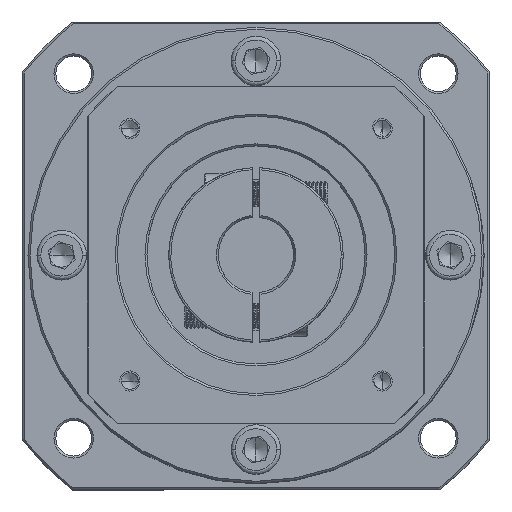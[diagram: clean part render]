
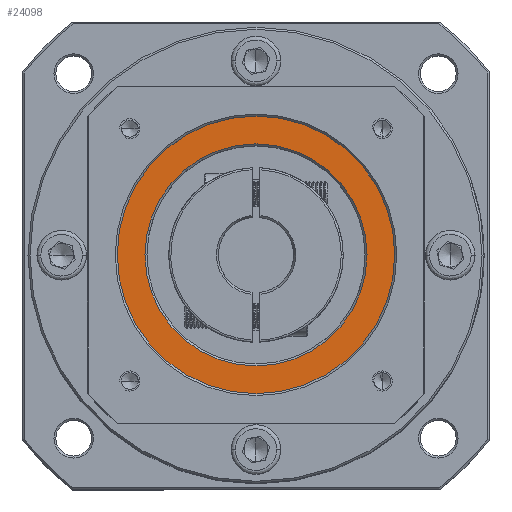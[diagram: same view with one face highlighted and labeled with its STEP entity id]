
A CAD part, top view. The second image highlights one B-rep face of the part: STEP entity #24098.
In plain terms, the highlighted planar face has unit normal (0, 0, 1).
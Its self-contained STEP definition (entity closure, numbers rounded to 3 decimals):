
#6290 = AXIS2_PLACEMENT_3D ( 'NONE', #61784, #9585, #70523 ) ;
#9585 = DIRECTION ( 'NONE',  ( 0., 0., -1. ) ) ;
#10197 = CIRCLE ( 'NONE', #78167, 35. ) ;
#10216 = CARTESIAN_POINT ( 'NONE',  ( -117.577, 40.966, 10.175 ) ) ;
#11823 = CARTESIAN_POINT ( 'NONE',  ( -89.577, 40.966, 10.175 ) ) ;
#13578 = CARTESIAN_POINT ( 'NONE',  ( -89.577, 40.966, 10.175 ) ) ;
#20489 = DIRECTION ( 'NONE',  ( 1., 0., 0. ) ) ;
#22257 = DIRECTION ( 'NONE',  ( 1., 0., 0. ) ) ;
#22419 = EDGE_LOOP ( 'NONE', ( #25026, #42440 ) ) ;
#22742 = EDGE_CURVE ( 'NONE', #59014, #89448, #29002, .T. ) ;
#24098 = ADVANCED_FACE ( 'NONE', ( #83777, #81041 ), #90517, .T. ) ;
#25026 = ORIENTED_EDGE ( 'NONE', *, *, #75620, .T. ) ;
#25203 = CARTESIAN_POINT ( 'NONE',  ( -124.577, 40.966, 10.175 ) ) ;
#26649 = ORIENTED_EDGE ( 'NONE', *, *, #69552, .T. ) ;
#29002 = CIRCLE ( 'NONE', #37914, 35. ) ;
#30120 = CIRCLE ( 'NONE', #103787, 28. ) ;
#31387 = CARTESIAN_POINT ( 'NONE',  ( -54.577, 40.966, 10.175 ) ) ;
#31690 = CARTESIAN_POINT ( 'NONE',  ( -89.577, 40.966, 10.175 ) ) ;
#34657 = EDGE_CURVE ( 'NONE', #35005, #74317, #30120, .T. ) ;
#35005 = VERTEX_POINT ( 'NONE', #10216 ) ;
#37914 = AXIS2_PLACEMENT_3D ( 'NONE', #31690, #92705, #40487 ) ;
#40487 = DIRECTION ( 'NONE',  ( 1., 0., 0. ) ) ;
#42440 = ORIENTED_EDGE ( 'NONE', *, *, #22742, .T. ) ;
#44364 = CARTESIAN_POINT ( 'NONE',  ( -89.577, 40.966, 10.175 ) ) ;
#53156 = DIRECTION ( 'NONE',  ( 1., 0., 0. ) ) ;
#55784 = CARTESIAN_POINT ( 'NONE',  ( -61.577, 40.966, 10.175 ) ) ;
#59014 = VERTEX_POINT ( 'NONE', #25203 ) ;
#61784 = CARTESIAN_POINT ( 'NONE',  ( -89.577, 40.966, 10.175 ) ) ;
#69552 = EDGE_CURVE ( 'NONE', #74317, #35005, #87738, .T. ) ;
#70523 = DIRECTION ( 'NONE',  ( 1., 0., 0. ) ) ;
#72747 = DIRECTION ( 'NONE',  ( 0., 0., -1. ) ) ;
#74317 = VERTEX_POINT ( 'NONE', #55784 ) ;
#74529 = DIRECTION ( 'NONE',  ( 0., 0., 1. ) ) ;
#75620 = EDGE_CURVE ( 'NONE', #89448, #59014, #10197, .T. ) ;
#78167 = AXIS2_PLACEMENT_3D ( 'NONE', #44364, #105303, #53156 ) ;
#79564 = EDGE_LOOP ( 'NONE', ( #26649, #94999 ) ) ;
#81041 = FACE_BOUND ( 'NONE', #79564, .T. ) ;
#83777 = FACE_OUTER_BOUND ( 'NONE', #22419, .T. ) ;
#87738 = CIRCLE ( 'NONE', #6290, 28. ) ;
#89448 = VERTEX_POINT ( 'NONE', #31387 ) ;
#90517 = PLANE ( 'NONE',  #102312 ) ;
#92705 = DIRECTION ( 'NONE',  ( 0., 0., 1. ) ) ;
#94999 = ORIENTED_EDGE ( 'NONE', *, *, #34657, .T. ) ;
#102312 = AXIS2_PLACEMENT_3D ( 'NONE', #13578, #74529, #22257 ) ;
#103787 = AXIS2_PLACEMENT_3D ( 'NONE', #11823, #72747, #20489 ) ;
#105303 = DIRECTION ( 'NONE',  ( 0., 0., 1. ) ) ;
